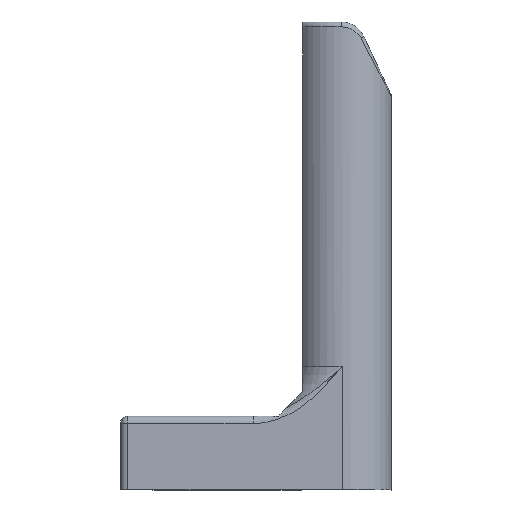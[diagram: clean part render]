
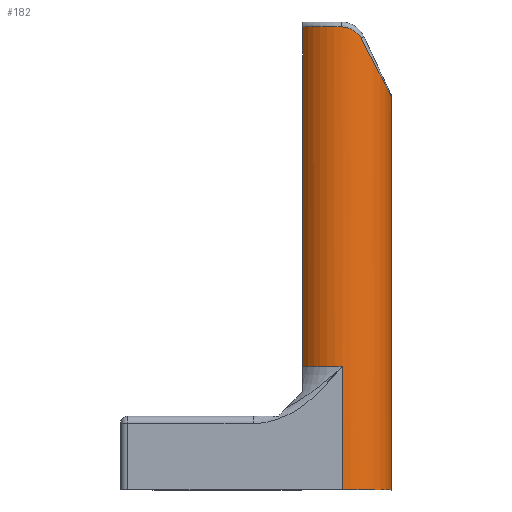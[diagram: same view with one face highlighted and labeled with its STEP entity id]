
A CAD part, front view. The second image highlights one B-rep face of the part: STEP entity #182.
In plain terms, the highlighted cylindrical face has radius 10 mm (diameter 20 mm), a partial arc.
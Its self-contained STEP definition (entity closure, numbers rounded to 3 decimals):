
#75=CARTESIAN_POINT('Control Point',(3.828,-9.238,91.69)) ;
#76=CARTESIAN_POINT('Control Point',(4.735,-8.862,89.94)) ;
#77=CARTESIAN_POINT('Control Point',(6.437,-7.842,86.655)) ;
#78=CARTESIAN_POINT('Control Point',(8.436,-5.636,82.797)) ;
#79=CARTESIAN_POINT('Control Point',(9.709,-2.945,80.34)) ;
#80=CARTESIAN_POINT('Control Point',(10.,-0.982,79.778)) ;
#81=CARTESIAN_POINT('Control Point',(10.,0.,79.778)) ;
#82=CARTESIAN_POINT('Vertex',(10.,0.,79.778)) ;
#84=CARTESIAN_POINT('Vertex',(3.828,-9.238,91.69)) ;
#117=CARTESIAN_POINT('Axis2P3D Location',(0.,0.,120.)) ;
#122=CARTESIAN_POINT('Line Origine',(10.,0.,120.)) ;
#126=CARTESIAN_POINT('Vertex',(10.,0.,0.)) ;
#130=CARTESIAN_POINT('Control Point',(3.828,-9.238,91.69)) ;
#131=CARTESIAN_POINT('Control Point',(3.378,-9.425,92.558)) ;
#132=CARTESIAN_POINT('Control Point',(2.672,-9.687,93.254)) ;
#133=CARTESIAN_POINT('Control Point',(1.778,-9.915,93.752)) ;
#134=CARTESIAN_POINT('Control Point',(0.795,-10.018,94.)) ;
#135=CARTESIAN_POINT('Control Point',(-0.2,-9.998,94.)) ;
#136=CARTESIAN_POINT('Vertex',(-0.2,-9.998,94.)) ;
#139=CARTESIAN_POINT('Axis2P3D Location',(0.,0.,94.)) ;
#143=CARTESIAN_POINT('Vertex',(-8.,-6.,94.)) ;
#146=CARTESIAN_POINT('Line Origine',(-8.,-6.,120.)) ;
#150=CARTESIAN_POINT('Vertex',(-8.,-6.,25.)) ;
#153=CARTESIAN_POINT('Axis2P3D Location',(0.,0.,25.)) ;
#157=CARTESIAN_POINT('Vertex',(0.,-10.,25.)) ;
#160=CARTESIAN_POINT('Line Origine',(0.,-10.,120.)) ;
#164=CARTESIAN_POINT('Vertex',(0.,-10.,0.)) ;
#167=CARTESIAN_POINT('Axis2P3D Location',(0.,0.,0.)) ;
#118=DIRECTION('Axis2P3D Direction',(-0.,0.,-1.)) ;
#119=DIRECTION('Axis2P3D XDirection',(1.,0.,-0.)) ;
#123=DIRECTION('Vector Direction',(0.,0.,-1.)) ;
#140=DIRECTION('Axis2P3D Direction',(-0.,0.,-1.)) ;
#147=DIRECTION('Vector Direction',(0.,0.,-1.)) ;
#154=DIRECTION('Axis2P3D Direction',(-0.,0.,-1.)) ;
#161=DIRECTION('Vector Direction',(0.,0.,-1.)) ;
#168=DIRECTION('Axis2P3D Direction',(-0.,0.,-1.)) ;
#120=AXIS2_PLACEMENT_3D('Cylinder Axis2P3D',#117,#118,#119) ;
#141=AXIS2_PLACEMENT_3D('Circle Axis2P3D',#139,#140,$) ;
#155=AXIS2_PLACEMENT_3D('Circle Axis2P3D',#153,#154,$) ;
#169=AXIS2_PLACEMENT_3D('Circle Axis2P3D',#167,#168,$) ;
#173=ORIENTED_EDGE('',*,*,#128,.F.) ;
#174=ORIENTED_EDGE('',*,*,#86,.T.) ;
#175=ORIENTED_EDGE('',*,*,#138,.T.) ;
#176=ORIENTED_EDGE('',*,*,#145,.T.) ;
#177=ORIENTED_EDGE('',*,*,#152,.F.) ;
#178=ORIENTED_EDGE('',*,*,#159,.T.) ;
#179=ORIENTED_EDGE('',*,*,#166,.T.) ;
#180=ORIENTED_EDGE('',*,*,#171,.F.) ;
#124=VECTOR('Line Direction',#123,1.) ;
#148=VECTOR('Line Direction',#147,1.) ;
#162=VECTOR('Line Direction',#161,1.) ;
#182=ADVANCED_FACE('Importato1',(#181),#121,.T.) ;
#129=B_SPLINE_CURVE_WITH_KNOTS('',5,(#130,#131,#132,#133,#134,#135),.UNSPECIFIED.,.F.,.U.,(6,6),(0.,7.009),.UNSPECIFIED.) ;
#142=CIRCLE('generated circle',#141,10.) ;
#156=CIRCLE('generated circle',#155,10.) ;
#170=CIRCLE('generated circle',#169,10.) ;
#121=CYLINDRICAL_SURFACE('generated cylinder',#120,10.) ;
#86=EDGE_CURVE('',#83,#85,#74,.F.) ;
#128=EDGE_CURVE('',#83,#127,#125,.T.) ;
#138=EDGE_CURVE('',#85,#137,#129,.T.) ;
#145=EDGE_CURVE('',#137,#144,#142,.T.) ;
#152=EDGE_CURVE('',#151,#144,#149,.F.) ;
#159=EDGE_CURVE('',#151,#158,#156,.F.) ;
#166=EDGE_CURVE('',#158,#165,#163,.T.) ;
#171=EDGE_CURVE('',#127,#165,#170,.T.) ;
#172=EDGE_LOOP('',(#173,#174,#175,#176,#177,#178,#179,#180)) ;
#181=FACE_OUTER_BOUND('',#172,.T.) ;
#125=LINE('Line',#122,#124) ;
#149=LINE('Line',#146,#148) ;
#163=LINE('Line',#160,#162) ;
#83=VERTEX_POINT('',#82) ;
#85=VERTEX_POINT('',#84) ;
#127=VERTEX_POINT('',#126) ;
#137=VERTEX_POINT('',#136) ;
#144=VERTEX_POINT('',#143) ;
#151=VERTEX_POINT('',#150) ;
#158=VERTEX_POINT('',#157) ;
#165=VERTEX_POINT('',#164) ;
#74=(BOUNDED_CURVE()B_SPLINE_CURVE(3,(#75,#76,#77,#78,#79,#80,#81),.UNSPECIFIED.,.F.,.U.)B_SPLINE_CURVE_WITH_KNOTS((4,1,1,1,4),(5.105,9.383,13.66,17.937,22.215),.UNSPECIFIED.)CURVE()GEOMETRIC_REPRESENTATION_ITEM()RATIONAL_B_SPLINE_CURVE((1.,1.,1.,1.,1.,1.,1.))REPRESENTATION_ITEM('')) ;
